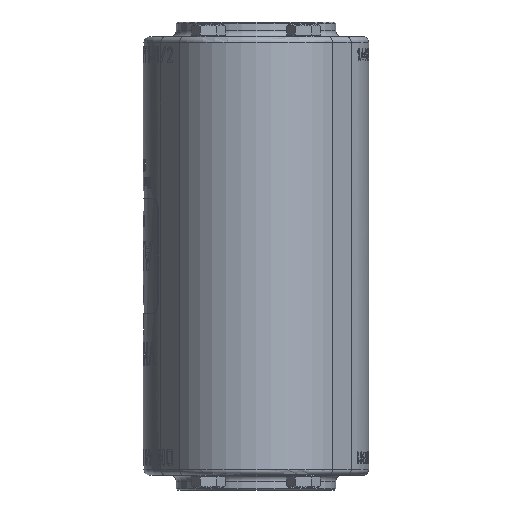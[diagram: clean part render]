
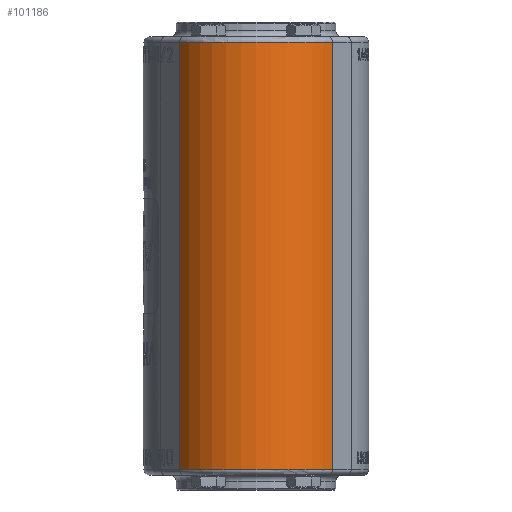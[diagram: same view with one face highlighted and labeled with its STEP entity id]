
A CAD part, left-side view. The second image highlights one B-rep face of the part: STEP entity #101186.
In plain terms, the highlighted cylindrical face has radius 31 mm (diameter 62 mm), a partial arc.
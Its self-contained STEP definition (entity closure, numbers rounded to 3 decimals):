
#11789 = CARTESIAN_POINT ( 'NONE',  ( -30.607, 26.176, -73. ) ) ;
#14509 = CARTESIAN_POINT ( 'NONE',  ( -30.607, 26.176, -80.001 ) ) ;
#16435 = DIRECTION ( 'NONE',  ( 0., 0., 1. ) ) ;
#24882 = EDGE_LOOP ( 'NONE', ( #172161, #113097, #70558, #118440 ) ) ;
#28099 = CARTESIAN_POINT ( 'NONE',  ( -30.607, -26.176, -73. ) ) ;
#28306 = DIRECTION ( 'NONE',  ( 0., 0., 1. ) ) ;
#32535 = DIRECTION ( 'NONE',  ( 0., 0., -1. ) ) ;
#41075 = FACE_OUTER_BOUND ( 'NONE', #24882, .T. ) ;
#43854 = CARTESIAN_POINT ( 'NONE',  ( -14., 0., -73. ) ) ;
#45590 = CIRCLE ( 'NONE', #126094, 31. ) ;
#51117 = EDGE_CURVE ( 'NONE', #127602, #96594, #92278, .T. ) ;
#57582 = DIRECTION ( 'NONE',  ( 0., -1., 0. ) ) ;
#63015 = CARTESIAN_POINT ( 'NONE',  ( -30.607, 26.176, 73. ) ) ;
#63022 = LINE ( 'NONE', #14509, #148503 ) ;
#70558 = ORIENTED_EDGE ( 'NONE', *, *, #51117, .T. ) ;
#85173 = CARTESIAN_POINT ( 'NONE',  ( -30.607, -26.176, 73. ) ) ;
#92278 = LINE ( 'NONE', #151983, #128598 ) ;
#95829 = CIRCLE ( 'NONE', #142543, 31. ) ;
#96511 = CYLINDRICAL_SURFACE ( 'NONE', #122928, 31. ) ;
#96594 = VERTEX_POINT ( 'NONE', #85173 ) ;
#101186 = ADVANCED_FACE ( 'NONE', ( #41075 ), #96511, .T. ) ;
#104508 = DIRECTION ( 'NONE',  ( 0., -1., 0. ) ) ;
#104513 = VERTEX_POINT ( 'NONE', #11789 ) ;
#113097 = ORIENTED_EDGE ( 'NONE', *, *, #143132, .T. ) ;
#114279 = CARTESIAN_POINT ( 'NONE',  ( -14., 0., 73. ) ) ;
#118440 = ORIENTED_EDGE ( 'NONE', *, *, #173478, .T. ) ;
#122928 = AXIS2_PLACEMENT_3D ( 'NONE', #131420, #166670, #104508 ) ;
#126094 = AXIS2_PLACEMENT_3D ( 'NONE', #114279, #32535, #128047 ) ;
#127602 = VERTEX_POINT ( 'NONE', #28099 ) ;
#128047 = DIRECTION ( 'NONE',  ( 0., -1., 0. ) ) ;
#128598 = VECTOR ( 'NONE', #16435, 1000. ) ;
#131420 = CARTESIAN_POINT ( 'NONE',  ( -14., 0., -80.001 ) ) ;
#134116 = EDGE_CURVE ( 'NONE', #104513, #167662, #63022, .T. ) ;
#139389 = DIRECTION ( 'NONE',  ( 0., 0., 1. ) ) ;
#142543 = AXIS2_PLACEMENT_3D ( 'NONE', #43854, #139389, #57582 ) ;
#143132 = EDGE_CURVE ( 'NONE', #104513, #127602, #95829, .T. ) ;
#148503 = VECTOR ( 'NONE', #28306, 1000. ) ;
#151983 = CARTESIAN_POINT ( 'NONE',  ( -30.607, -26.176, -80.001 ) ) ;
#166670 = DIRECTION ( 'NONE',  ( 0., 0., 1. ) ) ;
#167662 = VERTEX_POINT ( 'NONE', #63015 ) ;
#172161 = ORIENTED_EDGE ( 'NONE', *, *, #134116, .F. ) ;
#173478 = EDGE_CURVE ( 'NONE', #96594, #167662, #45590, .T. ) ;
